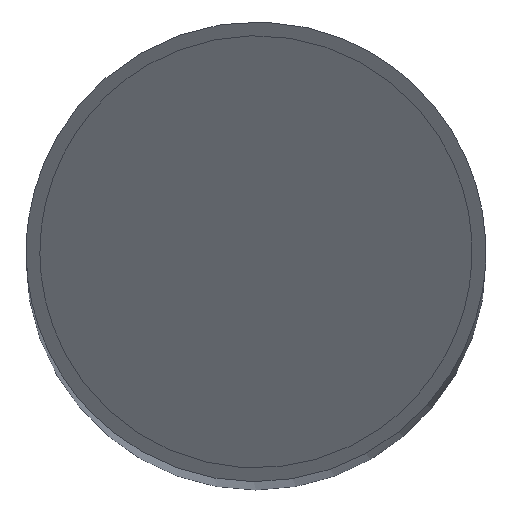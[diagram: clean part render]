
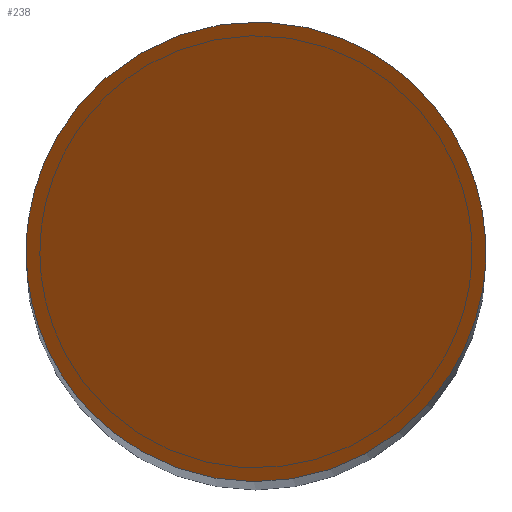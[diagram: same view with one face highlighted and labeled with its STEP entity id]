
A CAD part, top view. The second image highlights one B-rep face of the part: STEP entity #238.
In plain terms, the highlighted planar face has unit normal (-0.707, 0, 0.707).
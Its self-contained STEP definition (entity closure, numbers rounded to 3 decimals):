
#20=ELLIPSE('',#299,70.711,50.);
#21=ELLIPSE('',#300,70.711,50.);
#44=PLANE('',#301);
#69=FACE_OUTER_BOUND('',#92,.T.);
#92=EDGE_LOOP('',(#217,#218,#219));
#100=LINE('',#449,#109);
#109=VECTOR('',#377,10.);
#139=VERTEX_POINT('',#447);
#140=VERTEX_POINT('',#448);
#141=VERTEX_POINT('',#452);
#163=EDGE_CURVE('',#139,#140,#100,.T.);
#165=EDGE_CURVE('',#140,#141,#20,.T.);
#166=EDGE_CURVE('',#141,#139,#21,.T.);
#217=ORIENTED_EDGE('',*,*,#165,.T.);
#218=ORIENTED_EDGE('',*,*,#166,.T.);
#219=ORIENTED_EDGE('',*,*,#163,.T.);
#238=ADVANCED_FACE('',(#69),#44,.T.);
#299=AXIS2_PLACEMENT_3D('',#453,#382,#383);
#300=AXIS2_PLACEMENT_3D('',#454,#384,#385);
#301=AXIS2_PLACEMENT_3D('',#456,#387,#388);
#377=DIRECTION('',(0.,1.,0.));
#382=DIRECTION('center_axis',(-0.707,0.,0.707));
#383=DIRECTION('ref_axis',(0.707,0.,0.707));
#384=DIRECTION('center_axis',(-0.707,0.,0.707));
#385=DIRECTION('ref_axis',(0.707,0.,0.707));
#387=DIRECTION('center_axis',(-0.707,0.,0.707));
#388=DIRECTION('ref_axis',(0.707,0.,0.707));
#447=CARTESIAN_POINT('',(49.936,-2.527,1085.));
#448=CARTESIAN_POINT('',(49.936,2.527,1085.));
#449=CARTESIAN_POINT('',(49.936,0.,1085.));
#452=CARTESIAN_POINT('',(-50.,0.,985.064));
#453=CARTESIAN_POINT('Origin',(0.,0.,1035.064));
#454=CARTESIAN_POINT('Origin',(0.,0.,1035.064));
#456=CARTESIAN_POINT('Origin',(-12.532,0.,1022.532));
